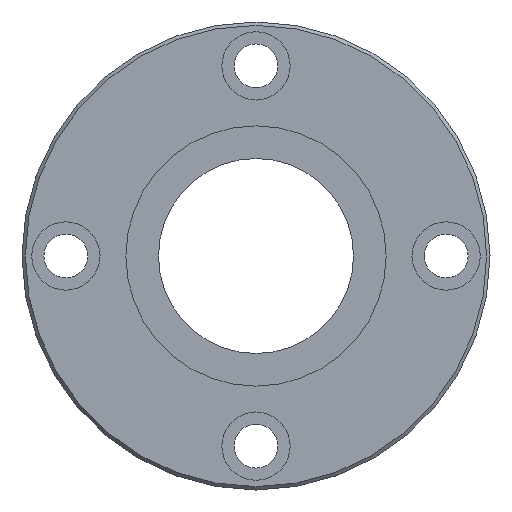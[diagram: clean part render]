
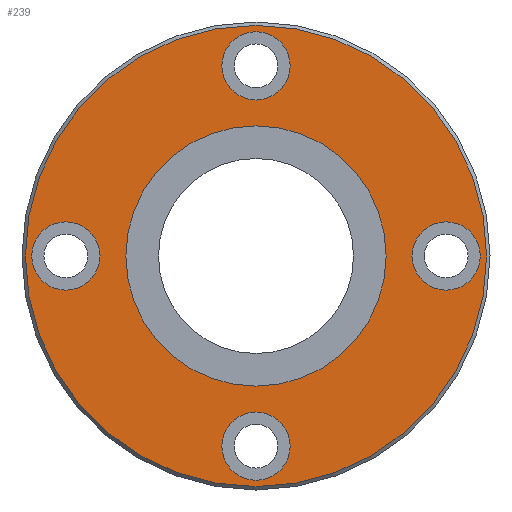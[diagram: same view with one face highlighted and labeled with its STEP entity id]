
A CAD part, left-side view. The second image highlights one B-rep face of the part: STEP entity #239.
In plain terms, the highlighted planar face has unit normal (-1, 0, 0).
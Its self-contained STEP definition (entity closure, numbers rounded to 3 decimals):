
#164=CARTESIAN_POINT('',(0.0,0.,47.3));
#165=VERTEX_POINT('',#164);
#166=CARTESIAN_POINT('',(0.0,0.0,0.0));
#167=DIRECTION('',(1.0,0.0,0.0));
#168=DIRECTION('',(0.0,0.0,-1.0));
#169=AXIS2_PLACEMENT_3D('',#166,#167,#168);
#170=CIRCLE('',#169,47.3);
#171=EDGE_CURVE('',#165,#165,#170,.T.);
#176=CARTESIAN_POINT('',(0.0,0.0,28.35));
#177=DIRECTION('',(-1.0,0.0,0.0));
#178=DIRECTION('',(0.0,0.0,1.0));
#179=AXIS2_PLACEMENT_3D('',#176,#177,#178);
#180=PLANE('',#179);
#181=ORIENTED_EDGE('',*,*,#171,.F.);
#182=EDGE_LOOP('',(#181));
#183=FACE_OUTER_BOUND('',#182,.T.);
#184=CARTESIAN_POINT('',(0.0,0.0,26.7));
#185=VERTEX_POINT('',#184);
#186=CARTESIAN_POINT('',(0.0,0.0,0.0));
#187=DIRECTION('',(-1.0,0.0,0.0));
#188=DIRECTION('',(0.0,0.0,1.0));
#189=AXIS2_PLACEMENT_3D('',#186,#187,#188);
#190=CIRCLE('',#189,26.7);
#191=EDGE_CURVE('',#185,#185,#190,.T.);
#192=ORIENTED_EDGE('',*,*,#191,.F.);
#193=EDGE_LOOP('',(#192));
#194=FACE_BOUND('',#193,.T.);
#195=CARTESIAN_POINT('',(0.0,46.,0.));
#196=VERTEX_POINT('',#195);
#197=CARTESIAN_POINT('',(0.0,39.0,0.));
#198=DIRECTION('',(1.0,0.0,0.0));
#199=DIRECTION('',(0.0,1.0,0.0));
#200=AXIS2_PLACEMENT_3D('',#197,#198,#199);
#201=CIRCLE('',#200,7.);
#202=EDGE_CURVE('',#196,#196,#201,.T.);
#203=ORIENTED_EDGE('',*,*,#202,.T.);
#204=EDGE_LOOP('',(#203));
#205=FACE_BOUND('',#204,.T.);
#206=CARTESIAN_POINT('',(0.0,-32.0,0.));
#207=VERTEX_POINT('',#206);
#208=CARTESIAN_POINT('',(0.0,-39.0,0.));
#209=DIRECTION('',(1.0,0.0,0.0));
#210=DIRECTION('',(0.0,1.0,0.0));
#211=AXIS2_PLACEMENT_3D('',#208,#209,#210);
#212=CIRCLE('',#211,7.);
#213=EDGE_CURVE('',#207,#207,#212,.T.);
#214=ORIENTED_EDGE('',*,*,#213,.T.);
#215=EDGE_LOOP('',(#214));
#216=FACE_BOUND('',#215,.T.);
#217=CARTESIAN_POINT('',(0.0,7.,39.0));
#218=VERTEX_POINT('',#217);
#219=CARTESIAN_POINT('',(0.0,0.,39.0));
#220=DIRECTION('',(1.0,0.0,0.0));
#221=DIRECTION('',(0.0,1.0,0.0));
#222=AXIS2_PLACEMENT_3D('',#219,#220,#221);
#223=CIRCLE('',#222,7.);
#224=EDGE_CURVE('',#218,#218,#223,.T.);
#225=ORIENTED_EDGE('',*,*,#224,.T.);
#226=EDGE_LOOP('',(#225));
#227=FACE_BOUND('',#226,.T.);
#228=CARTESIAN_POINT('',(0.0,7.,-39.0));
#229=VERTEX_POINT('',#228);
#230=CARTESIAN_POINT('',(0.0,0.,-39.0));
#231=DIRECTION('',(1.0,0.0,0.0));
#232=DIRECTION('',(0.0,1.0,0.0));
#233=AXIS2_PLACEMENT_3D('',#230,#231,#232);
#234=CIRCLE('',#233,7.);
#235=EDGE_CURVE('',#229,#229,#234,.T.);
#236=ORIENTED_EDGE('',*,*,#235,.T.);
#237=EDGE_LOOP('',(#236));
#238=FACE_BOUND('',#237,.T.);
#239=ADVANCED_FACE('',(#183,#194,#205,#216,#227,#238),#180,.T.);
